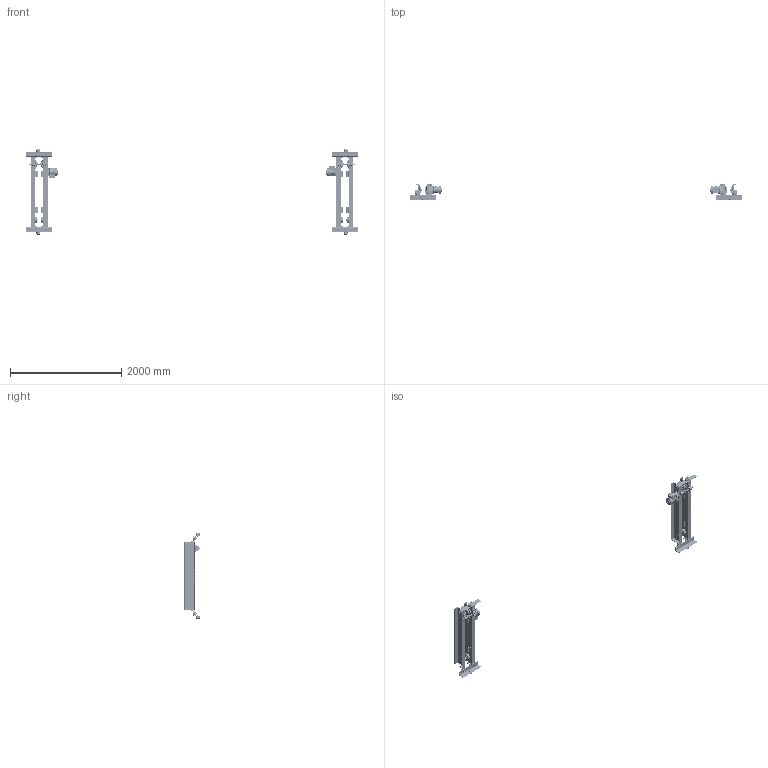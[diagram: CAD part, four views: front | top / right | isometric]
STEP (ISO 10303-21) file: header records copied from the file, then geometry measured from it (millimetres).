
FILE_DESCRIPTION (( 'STEP AP214' ), '1' );
FILE_NAME ('UMS-3-0235.STEP', '2026-08-11T15:32:34', ( '' ), ( '' ), 'SwSTEP 2.0', 'SolidWorks 2026', '' );
FILE_SCHEMA (( 'AUTOMOTIVE_DESIGN' ));
Length unit declared in the file: inch
Products named in the file (79): 9012515_9012515; G1JE025S9503; 9047252_9047252; 9047130_9047130; 6233203; 62368; G1JE025S9310; N6QL210209; N6QL510E9101_Domestic; 9012711_9012711; N6QO3101108_N6QO3101108; 9091273_9091273; 9043411; 6234701X_6234701B; 9798526_9798526; 62587; 62366; N6QL210207; G1JE025S9610; 9012514_9012514; 62369_6236902U; G1JE025S9401; 6232601_6232601; G1JE025S9301; 9000605; G1CM025L_ROTATED 180 DEGREES; 62367; G1JE025S9609; 6257004; UMS-3-0235; 9047262_B27.7M - 3BM1-62; G1JE025S9603; 6232401; N6QL210115; 6232301; 6232803_6232803; 5204405_5204405; 9012709_Rectangular section spring washer BS 4464 - 16 (Type B); 6234702X_6234702B; 6232304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
Assembly tree (360 placements, depth 4):
  UMS-3-0235
    62370_6237002U  x2
      62367
        MC08-018.7_48
        6232803_6232803
        6232803_6232803
      6232301
      6232304
      5204405_5204405
      6233203
    62369_6236902U
      62366
        MC08-018.7_48
        6232803_6232803
        6232803_6232803
      6232301  x2
      6232304  x2
      5204405_5204405  x2
      6233203  x2
      6257004
    62371_6237102U
      62368
        MC08-018.7_48
        6232803_6232803
        6232803_6232803
      6232301  x2
      6232304  x2
      5204405_5204405  x2
      6233203  x2
      6257004
    6234701X_6234701B  x2
    6234702X_6234702B  x2
    N6QL210207  x4
    9012514_9012514  x12
    9093101_9093101  x4
    9093424_9093424  x8
    N6QO3101108_N6QO3101108  x8
      N6QO310E9108_N6QO3101108 DOMESTIC
      9047252_9047252
      9000605
    6232404  x8
    9047125_B27.7M - 3AM1-23  x8
    9012515_9012515  x16
    9093433_9093433  x32
    9093146_9093146  x8
    6234501  x4
      6232601_6232601
      9000606
      9047262_B27.7M - 3BM1-62
    6232401  x8
    9047130_9047130  x8
    N6QL5101101  x4
      N6QL510E9101_Domestic
      9000606
      9047262_B27.7M - 3BM1-62
    N6QL210116  x4
    9012712_9012712  x8
    9043411  x8
    9093354_9093354  x8
    9093427_9093427  x8
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Bounding box: 5958.38 x 292.1 x 1525.81 mm (x, y, z)
Volume: 33088688.2 mm3; surface area: 7254201.5 mm2
Topology: 387 solids, 483 shells, 25604 faces, 66158 edges, 42576 vertices
Faces by surface type: plane 12408, cylinder 5778, bspline 3746, cone 2598, torus 888, sphere 186
Entity records: 215553 total; most frequent: CARTESIAN_POINT 91174, ORIENTED_EDGE 25770, DIRECTION 23273, EDGE_CURVE 12889, AXIS2_PLACEMENT_3D 8970, VERTEX_POINT 8207, EDGE_LOOP 5516, VECTOR 5333
